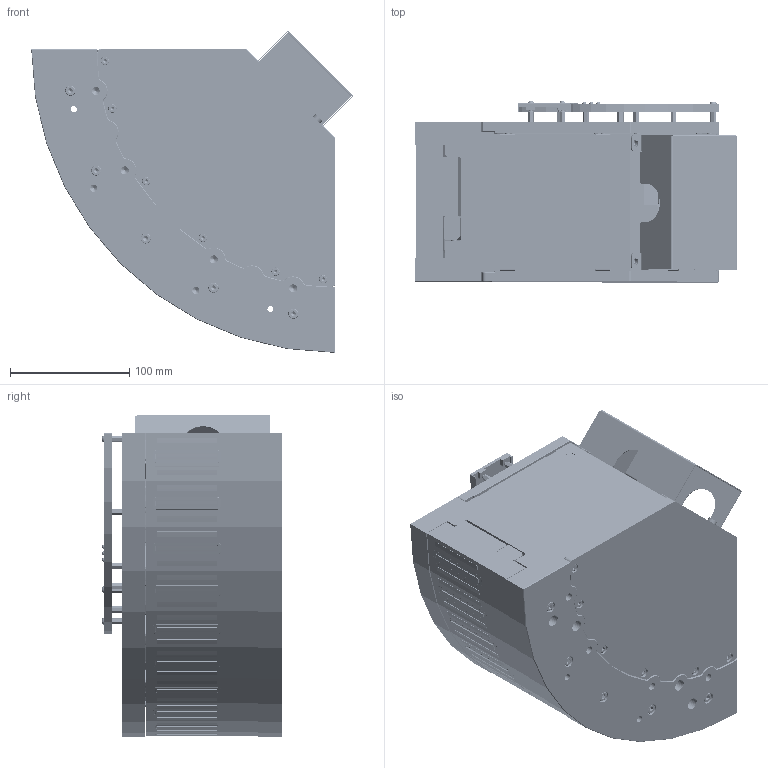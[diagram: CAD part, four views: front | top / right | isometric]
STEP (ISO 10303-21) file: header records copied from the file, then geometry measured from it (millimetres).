
FILE_DESCRIPTION (( 'STEP AP214' ), '1' );
FILE_NAME ('FTS-MT.SUB005.STEP', '2025-02-21T05:18:25', ( '' ), ( '' ), 'SwSTEP 2.0', 'SolidWorks 2021', '' );
FILE_SCHEMA (( 'AUTOMOTIVE_DESIGN' ));
Length unit declared in the file: millimetre
Products named in the file (20): H5-M3×10+8+六角铁柱镀镍+国产; FTS-MT.SUB005.0008; FTS-MT.SUB005.0004; M3×40＋4+不锈钢单头六角柱+国产; FTS-MT.SUB005.0002; M5x35-内六角圆柱头-全牙-A2-70-包胶+螺钉+国产; FTS-MT.SUB005.0005; LDT3.0-L3.2+导光柱+国产; M5x80-内六角圆柱头-全牙-A2-70-包胶+螺钉+国产; H5-M3×9＋6+六角铁柱镀镍+国产; FTS-MT.SUB005.0003; M3x10-内六角平圆头-全牙-8.8级-不锈钢+螺钉+国产; M3x28+4+不锈钢单头六角柱+国产; DDR254-90-CG+50mm-90度弧形线圈+上海会通; FTS-MT.SUB005.0007; M4x8-内六角圆柱头-全牙-8.8级-不锈钢+螺钉+国产; FTS-MT.SUB005; FTS-MT.SUB005.0001; FTS-MT.SUB005.0006; M3x6-内六角平圆头-全牙-A2-70+螺钉+国产
Assembly tree (93 placements, depth 2):
  FTS-MT.SUB005
    FTS-MT.SUB005.0001
    FTS-MT.SUB005.0002
    FTS-MT.SUB005.0003
    FTS-MT.SUB005.0004
    FTS-MT.SUB005.0005
    FTS-MT.SUB005.0006
    FTS-MT.SUB005.0007
    FTS-MT.SUB005.0008  x2
    LDT3.0-L3.2+导光柱+国产  x3
    H5-M3×9＋6+六角铁柱镀镍+国产  x19
    H5-M3×10+8+六角铁柱镀镍+国产  x4
    M3x28+4+不锈钢单头六角柱+国产  x2
    M3×40＋4+不锈钢单头六角柱+国产  x3
    M3x10-内六角平圆头-全牙-8.8级-不锈钢+螺钉+国产  x4
    M3x6-内六角平圆头-全牙-A2-70+螺钉+国产  x19
    M5x35-内六角圆柱头-全牙-A2-70-包胶+螺钉+国产  x5
    DDR254-90-CG+50mm-90度弧形线圈+上海会通
    M4x8-内六角圆柱头-全牙-8.8级-不锈钢+螺钉+国产  x16
    M5x80-内六角圆柱头-全牙-A2-70-包胶+螺钉+国产  x8
Bounding box: 269.62 x 151.4 x 269.77 mm (x, y, z)
Volume: 3732332.5 mm3; surface area: 954508.6 mm2
Topology: 129 solids, 129 shells, 5574 faces, 12964 edges, 7802 vertices
Faces by surface type: plane 2226, cylinder 1906, torus 725, cone 606, sphere 66, bspline 45
Entity records: 151614 total; most frequent: CARTESIAN_POINT 30470, DIRECTION 20892, ORIENTED_EDGE 18556, EDGE_CURVE 9278, AXIS2_PLACEMENT_3D 8257, VERTEX_POINT 5646, LINE 4378, VECTOR 4378
